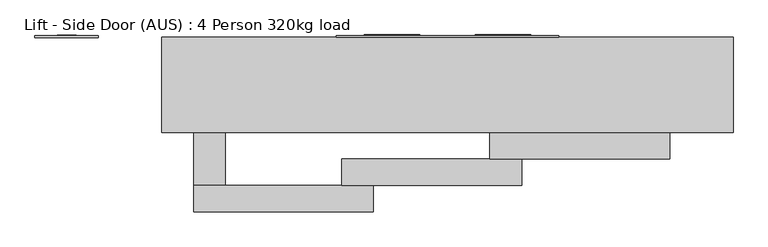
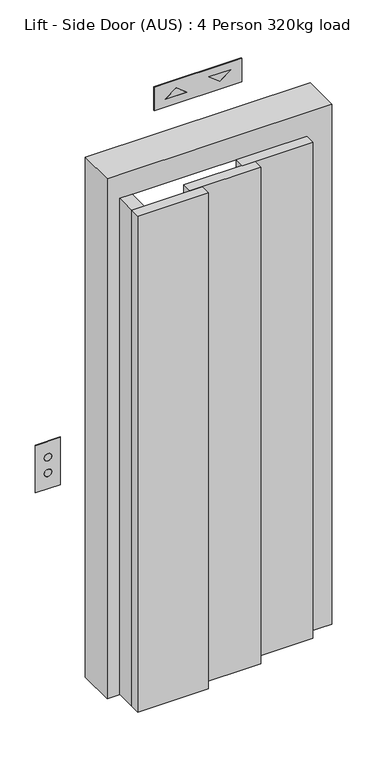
"""IFC4 building model written with IfcOpenShell, lengths in millimetres: proxy geometry, Lift - Side Door (AUS) : 4 Person 320kg load."""

from ifc_helpers import new_model, si_unit, point, frame, frame_2d, origin, origin_with_axes, place, context, project, spatial, polyline, circle_curve, trimmed, segment, composite_curve, outline, extrude, faceted_brep, source, transform, mapped, element, save


def lift_side_door_aus_4_person_320kg_load_5218565f(model_context):
    return source(origin(), model_context, "Body", "SolidModel", [
        extrude(outline(polyline([(2366.6666667, 435.1642846), (2366.6666667, 347.6642846), (2333.3333333, 391.4142846), (2366.6666667, 435.1642846)])), frame((0.0, 75.0, 0.0), z_axis=(0.0, 1.0, 0.0), x_axis=(0.0, 0.0, 1.0)), (0.0, 0.0, 1.0), 4.0),
        extrude(outline(polyline([(2333.3333333, 260.1642846), (2366.6666667, 216.4142846), (2333.3333333, 172.6642846), (2333.3333333, 260.1642846)])), frame((0.0, 75.0, 0.0), z_axis=(0.0, 1.0, 0.0), x_axis=(0.0, 0.0, 1.0)), (0.0, 0.0, 1.0), 4.0),
        extrude(outline(polyline([(2400.0, 128.9142846), (2300.0, 128.9142846), (2300.0, 478.9142846), (2400.0, 478.9142846), (2400.0, 128.9142846)]), holes=[polyline([(2333.3333333, 391.4142846), (2366.6666667, 347.6642846), (2366.6666667, 435.1642846), (2333.3333333, 391.4142846)]), polyline([(2366.6666667, 216.4142846), (2333.3333333, 260.1642846), (2333.3333333, 172.6642846), (2366.6666667, 216.4142846)])]), frame((0.0, 75.0, 0.0), z_axis=(0.0, 1.0, 0.0), x_axis=(0.0, 0.0, 1.0)), (0.0, 0.0, 1.0), 3.0),
        extrude(outline(composite_curve([segment(trimmed(circle_curve(frame_2d((983.3333333, -296.0857154)), 15.0), [point((983.3333333, -311.0857154))], [point((983.3333333, -281.0857154))], False, "CARTESIAN"), True, "CONTINUOUS"), segment(trimmed(circle_curve(frame_2d((983.3333333, -296.0857154)), 15.0), [point((983.3333333, -281.0857154))], [point((983.3333333, -311.0857154))], False, "CARTESIAN"), True, "CONTINUOUS")], self_intersect=False)), frame((0.0, 75.0, 0.0), z_axis=(0.0, 1.0, 0.0), x_axis=(0.0, 0.0, 1.0)), (0.0, 0.0, 1.0), 4.0),
        extrude(outline(composite_curve([segment(trimmed(circle_curve(frame_2d((916.6666667, -296.0857154)), 15.0), [point((916.6666667, -311.0857154))], [point((916.6666667, -281.0857154))], False, "CARTESIAN"), True, "CONTINUOUS"), segment(trimmed(circle_curve(frame_2d((916.6666667, -296.0857154)), 15.0), [point((916.6666667, -281.0857154))], [point((916.6666667, -311.0857154))], False, "CARTESIAN"), True, "CONTINUOUS")], self_intersect=False)), frame((0.0, 75.0, 0.0), z_axis=(0.0, 1.0, 0.0), x_axis=(0.0, 0.0, 1.0)), (0.0, 0.0, 1.0), 4.0),
        extrude(outline(polyline([(1050.0, -346.0857154), (850.0, -346.0857154), (850.0, -246.0857154), (1050.0, -246.0857154), (1050.0, -346.0857154)]), holes=[composite_curve([segment(trimmed(circle_curve(frame_2d((983.3333333, -296.0857154)), 15.0), [point((983.3333333, -311.0857154))], [point((983.3333333, -281.0857154))], True, "CARTESIAN"), True, "CONTINUOUS"), segment(trimmed(circle_curve(frame_2d((983.3333333, -296.0857154)), 15.0), [point((983.3333333, -281.0857154))], [point((983.3333333, -311.0857154))], True, "CARTESIAN"), True, "CONTINUOUS")], self_intersect=False), composite_curve([segment(trimmed(circle_curve(frame_2d((916.6666667, -296.0857154)), 15.0), [point((916.6666667, -311.0857154))], [point((916.6666667, -281.0857154))], True, "CARTESIAN"), True, "CONTINUOUS"), segment(trimmed(circle_curve(frame_2d((916.6666667, -296.0857154)), 15.0), [point((916.6666667, -281.0857154))], [point((916.6666667, -311.0857154))], True, "CARTESIAN"), True, "CONTINUOUS")], self_intersect=False)]), frame((0.0, 75.0, 0.0), z_axis=(0.0, 1.0, 0.0), x_axis=(0.0, 0.0, 1.0)), (0.0, 0.0, 1.0), 3.0),
        faceted_brep([(-146.0857154, -75.0, 0.0), (-146.0857154, 75.0, 0.0), (-96.0857154, 75.0, 0.0), (-96.0857154, 0.0, 0.0), (-46.0857154, 0.0, 0.0), (-46.0857154, -75.0, 0.0), (-146.0857154, -75.0, 2200.0), (-146.0857154, 75.0, 2200.0), (753.9142846, 75.0, 2200.0), (753.9142846, 75.0, 0.0), (703.9142846, 75.0, 0.0), (703.9142846, 75.0, 2150.0), (-96.0857154, 75.0, 2150.0), (-96.0857154, 0.0, 2150.0), (703.9142846, 0.0, 2150.0), (703.9142846, 0.0, 0.0), (653.9142846, 0.0, 0.0), (653.9142846, 0.0, 2100.0), (-46.0857154, 0.0, 2100.0), (-46.0857154, -75.0, 2100.0), (653.9142846, -75.0, 2100.0), (653.9142846, -75.0, 0.0), (753.9142846, -75.0, 0.0), (753.9142846, -75.0, 2200.0)], [[[0, 1, 2, 3, 4, 5]], [[1, 0, 6, 7]], [[2, 1, 7, 8, 9, 10, 11, 12]], [[3, 2, 12, 13]], [[4, 3, 13, 14, 15, 16, 17, 18]], [[5, 4, 18, 19]], [[0, 5, 19, 20, 21, 22, 23, 6]], [[7, 6, 23, 8]], [[13, 12, 11, 14]], [[19, 18, 17, 20]], [[22, 21, 16, 15, 10, 9]], [[8, 23, 22, 9]], [[14, 11, 10, 15]], [[20, 17, 16, 21]]]),
        extrude(outline(polyline([(370.5809512, -116.6666667), (370.5809512, -75.0), (653.9142846, -75.0), (653.9142846, -116.6666667), (370.5809512, -116.6666667)])), origin_with_axes(), (0.0, 0.0, 1.0), 2100.0),
        extrude(outline(polyline([(137.2476179, -158.3333333), (137.2476179, -116.6666667), (420.5809512, -116.6666667), (420.5809512, -158.3333333), (137.2476179, -158.3333333)])), origin_with_axes(), (0.0, 0.0, 1.0), 2100.0),
        extrude(outline(polyline([(-96.0857154, -158.3333333), (187.2476179, -158.3333333), (187.2476179, -200.0), (-96.0857154, -200.0), (-96.0857154, -158.3333333)])), origin_with_axes(), (0.0, 0.0, 1.0), 2100.0),
        extrude(outline(polyline([(-96.0857154, -75.0), (-46.0857154, -75.0), (-46.0857154, -158.3333333), (-96.0857154, -158.3333333), (-96.0857154, -75.0)])), origin_with_axes(), (0.0, 0.0, 1.0), 2100.0),
    ])


if __name__ == "__main__":
    model = new_model("IFC4")
    model_context = context("Model", 3, world=origin())
    ifc_project = project(units=[si_unit("LENGTHUNIT", "METRE", prefix="MILLI")], contexts=[model_context])
    site = spatial("IfcSite", under=ifc_project)
    building = spatial("IfcBuilding", under=site)
    placement = place(None, origin())
    lift_side_door_aus_4_person_320kg_load_shape = lift_side_door_aus_4_person_320kg_load_5218565f(model_context)
    element("IfcBuildingElementProxy", 1, Name="Lift - Side Door (AUS) : 4 Person 320kg load", ObjectType="Lift - Side Door (AUS) : 4 Person 320kg load", at=placement, inside=building, context=model_context, shape_type="MappedRepresentation", body=[
        mapped(lift_side_door_aus_4_person_320kg_load_shape, transform((0.0, 0.0, 0.0), x_axis=(1.0, 0.0, 0.0), y_axis=(0.0, 1.0, 0.0), z_axis=(0.0, 0.0, 1.0))),
    ])
    save(model, "model.ifc")
